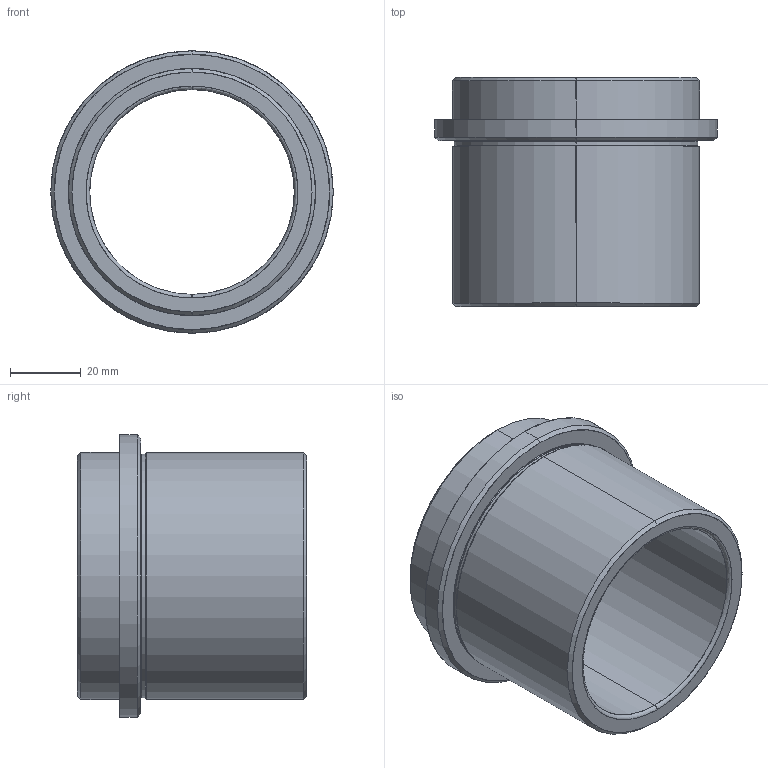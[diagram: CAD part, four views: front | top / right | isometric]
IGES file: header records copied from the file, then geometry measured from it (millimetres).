
Start section: SolidWorks IGES file using analytic representation for surfaces
Global section: file name: D:\Belgelerim\solid çalýþmalarým\D27 ÝGS 2\D27_50X65.IGS; native system: SolidWorks 2008; preprocessor: SolidWorks 2008; author: kalite-mail; date: 080707.140433; units: millimetre
Bounding box: 80 x 65 x 80 mm (x, y, z)
Surface area: 30707.6 mm2 (no closed solid volume)
Topology: 0 solids, 0 shells, 29 faces, 736 edges, 736 vertices
Faces by surface type: revolution 16, bspline 13
